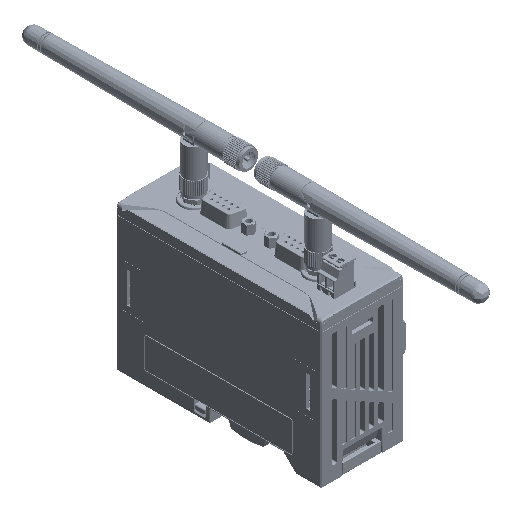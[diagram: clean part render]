
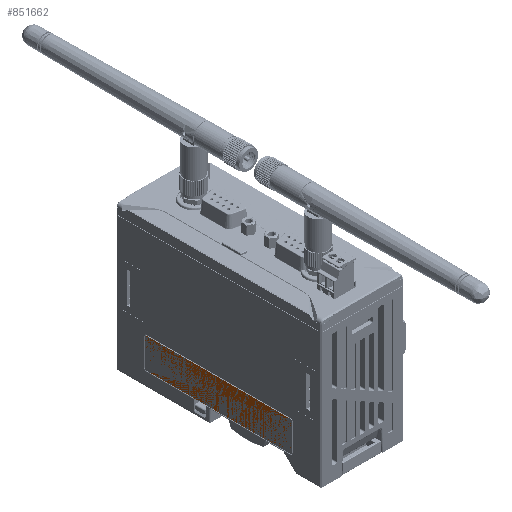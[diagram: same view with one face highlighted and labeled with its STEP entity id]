
A CAD part, isometric view. The second image highlights one B-rep face of the part: STEP entity #851662.
In plain terms, the highlighted planar face has unit normal (-1, 0, 0).
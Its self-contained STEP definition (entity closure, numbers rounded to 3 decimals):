
#850356=CARTESIAN_POINT('',(-1.,35.,21.05));
#850357=DIRECTION('',(-1.,0.,0.));
#850358=DIRECTION('',(0.,0.,1.));
#850359=AXIS2_PLACEMENT_3D('',#850356,#850357,#850358);
#850361=DIRECTION('',(0.,1.,0.));
#850362=VECTOR('',#850361,70.);
#850363=CARTESIAN_POINT('',(-1.,-35.,21.85));
#850364=LINE('',#850363,#850362);
#850365=CARTESIAN_POINT('',(-1.,-35.,21.05));
#850366=DIRECTION('',(-1.,0.,0.));
#850367=DIRECTION('',(0.,-1.,0.));
#850368=AXIS2_PLACEMENT_3D('',#850365,#850366,#850367);
#850370=DIRECTION('',(0.,0.,1.));
#850371=VECTOR('',#850370,13.1);
#850372=CARTESIAN_POINT('',(-1.,-35.8,7.95));
#850373=LINE('',#850372,#850371);
#850374=CARTESIAN_POINT('',(-1.,-35.,7.95));
#850375=DIRECTION('',(-1.,0.,0.));
#850376=DIRECTION('',(0.,0.,-1.));
#850377=AXIS2_PLACEMENT_3D('',#850374,#850375,#850376);
#850379=DIRECTION('',(0.,-1.,0.));
#850380=VECTOR('',#850379,70.);
#850381=CARTESIAN_POINT('',(-1.,35.,7.15));
#850382=LINE('',#850381,#850380);
#850383=CARTESIAN_POINT('',(-1.,35.,7.95));
#850384=DIRECTION('',(-1.,0.,0.));
#850385=DIRECTION('',(0.,1.,0.));
#850386=AXIS2_PLACEMENT_3D('',#850383,#850384,#850385);
#850388=DIRECTION('',(0.,0.,-1.));
#850389=VECTOR('',#850388,13.1);
#850390=CARTESIAN_POINT('',(-1.,35.8,21.05));
#850391=LINE('',#850390,#850389);
#851476=CARTESIAN_POINT('',(-1.,35.,7.15));
#851477=VERTEX_POINT('',#851476);
#851478=CARTESIAN_POINT('',(-1.,-35.,7.15));
#851479=VERTEX_POINT('',#851478);
#851480=CARTESIAN_POINT('',(-1.,35.8,7.95));
#851481=VERTEX_POINT('',#851480);
#851482=CARTESIAN_POINT('',(-1.,35.8,21.05));
#851483=VERTEX_POINT('',#851482);
#851484=CARTESIAN_POINT('',(-1.,35.,21.85));
#851485=VERTEX_POINT('',#851484);
#851488=CARTESIAN_POINT('',(-1.,-35.,21.85));
#851489=VERTEX_POINT('',#851488);
#851528=CARTESIAN_POINT('',(-1.,-35.8,21.05));
#851529=VERTEX_POINT('',#851528);
#851530=CARTESIAN_POINT('',(-1.,-35.8,7.95));
#851531=VERTEX_POINT('',#851530);
#851642=CARTESIAN_POINT('',(-1.,43.056,5.584));
#851643=DIRECTION('',(-1.,0.,0.));
#851644=DIRECTION('',(0.,1.,0.));
#851645=AXIS2_PLACEMENT_3D('',#851642,#851643,#851644);
#851646=PLANE('',#851645);
#851647=ORIENTED_EDGE('',*,*,#851595,.F.);
#851648=ORIENTED_EDGE('',*,*,#851582,.F.);
#851650=ORIENTED_EDGE('',*,*,#851649,.F.);
#851652=ORIENTED_EDGE('',*,*,#851651,.F.);
#851654=ORIENTED_EDGE('',*,*,#851653,.F.);
#851656=ORIENTED_EDGE('',*,*,#851655,.F.);
#851658=ORIENTED_EDGE('',*,*,#851657,.F.);
#851659=ORIENTED_EDGE('',*,*,#851634,.F.);
#851660=EDGE_LOOP('',(#851647,#851648,#851650,#851652,#851654,#851656,#851658,
#851659));
#851661=FACE_OUTER_BOUND('',#851660,.F.);
#851662=ADVANCED_FACE('',(#851661),#851646,.T.);
#850360=CIRCLE('',#850359,0.8);
#850369=CIRCLE('',#850368,0.8);
#850378=CIRCLE('',#850377,0.8);
#850387=CIRCLE('',#850386,0.8);
#851582=EDGE_CURVE('',#851489,#851485,#850364,.T.);
#851595=EDGE_CURVE('',#851485,#851483,#850360,.T.);
#851634=EDGE_CURVE('',#851483,#851481,#850391,.T.);
#851649=EDGE_CURVE('',#851529,#851489,#850369,.T.);
#851651=EDGE_CURVE('',#851531,#851529,#850373,.T.);
#851653=EDGE_CURVE('',#851479,#851531,#850378,.T.);
#851655=EDGE_CURVE('',#851477,#851479,#850382,.T.);
#851657=EDGE_CURVE('',#851481,#851477,#850387,.T.);
